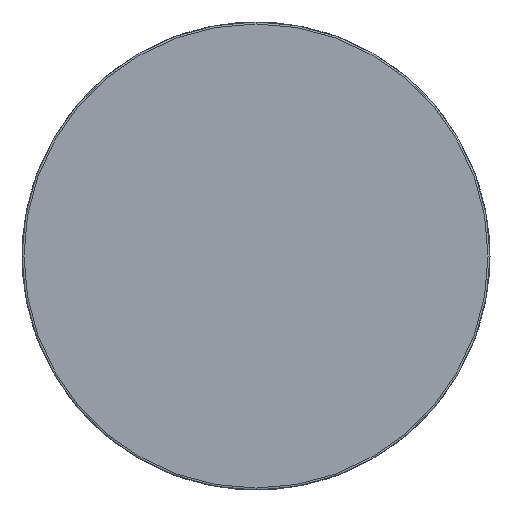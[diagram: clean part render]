
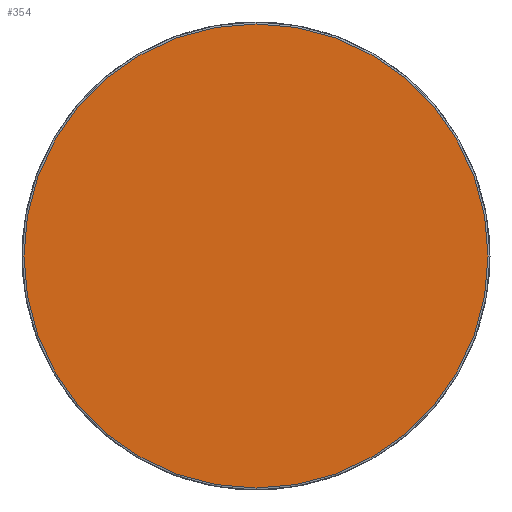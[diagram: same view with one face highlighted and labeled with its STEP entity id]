
A CAD part, left-side view. The second image highlights one B-rep face of the part: STEP entity #354.
In plain terms, the highlighted planar face has unit normal (-1, 0, 0).
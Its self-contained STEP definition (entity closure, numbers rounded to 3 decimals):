
#316=CARTESIAN_POINT('',(-525.136,-488.109,59.5));
#317=VERTEX_POINT('',#316);
#325=CARTESIAN_POINT('',(-525.136,-488.109,-59.5));
#326=VERTEX_POINT('',#325);
#327=CARTESIAN_POINT('',(-525.136,-488.109,0.));
#328=DIRECTION('',(-1.0,0.0,0.0));
#329=DIRECTION('',(0.0,0.0,1.0));
#330=AXIS2_PLACEMENT_3D('',#327,#328,#329);
#331=CIRCLE('',#330,59.5);
#332=EDGE_CURVE('',#326,#317,#331,.T.);
#334=CARTESIAN_POINT('',(-525.136,-488.109,0.));
#335=DIRECTION('',(-1.0,0.0,0.0));
#336=DIRECTION('',(0.0,0.0,1.0));
#337=AXIS2_PLACEMENT_3D('',#334,#335,#336);
#338=CIRCLE('',#337,59.5);
#339=EDGE_CURVE('',#317,#326,#338,.T.);
#345=CARTESIAN_POINT('',(-525.136,-607.109,119.));
#346=DIRECTION('',(-1.0,0.0,0.0));
#347=DIRECTION('',(0.0,1.0,0.0));
#348=AXIS2_PLACEMENT_3D('',#345,#346,#347);
#349=PLANE('',#348);
#350=ORIENTED_EDGE('',*,*,#339,.T.);
#351=ORIENTED_EDGE('',*,*,#332,.T.);
#352=EDGE_LOOP('',(#350,#351));
#353=FACE_OUTER_BOUND('',#352,.T.);
#354=ADVANCED_FACE('',(#353),#349,.T.);
